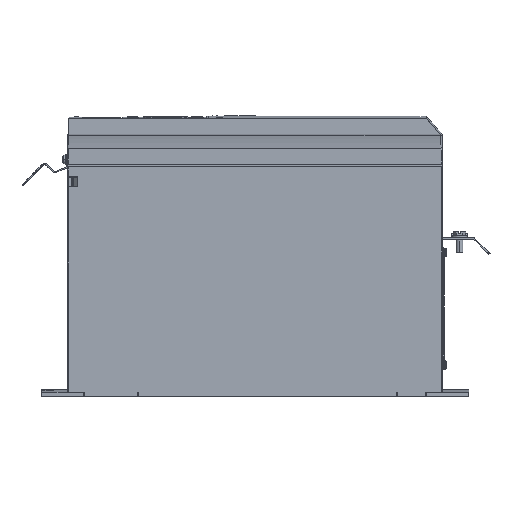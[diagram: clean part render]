
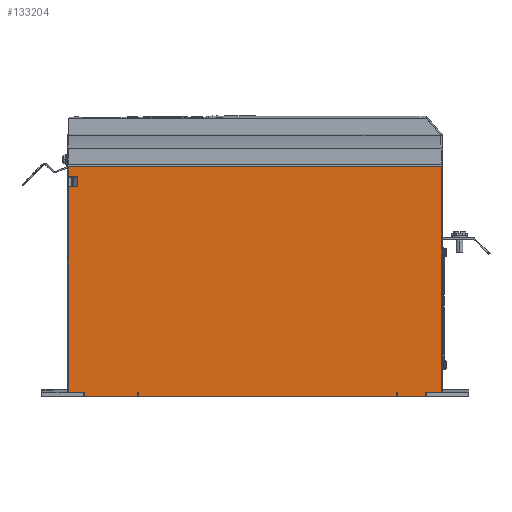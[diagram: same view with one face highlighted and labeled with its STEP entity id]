
A CAD part, left-side view. The second image highlights one B-rep face of the part: STEP entity #133204.
In plain terms, the highlighted planar face has unit normal (-1, 0, 0).
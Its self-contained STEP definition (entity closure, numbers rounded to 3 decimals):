
#48799=DIRECTION('',(0.,1.,0.));
#48800=VECTOR('',#48799,8.146);
#48801=CARTESIAN_POINT('',(-82.5,166.604,205.45));
#48802=LINE('',#48801,#48800);
#48806=DIRECTION('',(0.,0.,1.));
#48807=VECTOR('',#48806,9.2);
#48808=CARTESIAN_POINT('',(-82.5,174.75,205.45));
#48809=LINE('',#48808,#48807);
#48813=DIRECTION('',(0.,1.,0.));
#48814=VECTOR('',#48813,349.25);
#48815=CARTESIAN_POINT('',(-82.5,-174.5,214.65));
#48816=LINE('',#48815,#48814);
#48820=DIRECTION('',(0.,0.,-1.));
#48821=VECTOR('',#48820,210.882);
#48822=CARTESIAN_POINT('',(-82.5,-174.5,214.65));
#48823=LINE('',#48822,#48821);
#48827=DIRECTION('',(0.,1.,0.));
#48828=VECTOR('',#48827,14.95);
#48829=CARTESIAN_POINT('',(-82.5,-174.5,3.768));
#48830=LINE('',#48829,#48828);
#48834=DIRECTION('',(0.,0.,1.));
#48835=VECTOR('',#48834,3.768);
#48836=CARTESIAN_POINT('',(-82.5,-132.589,0.));
#48837=LINE('',#48836,#48835);
#48841=DIRECTION('',(0.,1.,0.));
#48842=VECTOR('',#48841,0.5);
#48843=CARTESIAN_POINT('',(-82.5,-132.589,3.768));
#48844=LINE('',#48843,#48842);
#48848=DIRECTION('',(0.,0.,-1.));
#48849=VECTOR('',#48848,3.775);
#48850=CARTESIAN_POINT('',(-82.5,-132.089,3.768));
#48851=LINE('',#48850,#48849);
#48855=DIRECTION('',(0.,1.,0.));
#48856=VECTOR('',#48855,241.178);
#48857=CARTESIAN_POINT('',(-82.5,-132.089,-0.007));
#48858=LINE('',#48857,#48856);
#48862=DIRECTION('',(0.,0.,1.));
#48863=VECTOR('',#48862,3.775);
#48864=CARTESIAN_POINT('',(-82.5,109.089,-0.007));
#48865=LINE('',#48864,#48863);
#48869=DIRECTION('',(0.,1.,0.));
#48870=VECTOR('',#48869,0.5);
#48871=CARTESIAN_POINT('',(-82.5,109.089,3.768));
#48872=LINE('',#48871,#48870);
#48876=DIRECTION('',(0.,0.,1.));
#48877=VECTOR('',#48876,3.768);
#48878=CARTESIAN_POINT('',(-82.5,109.589,0.));
#48879=LINE('',#48878,#48877);
#48883=DIRECTION('',(0.,1.,0.));
#48884=VECTOR('',#48883,15.594);
#48885=CARTESIAN_POINT('',(-82.5,159.156,3.768));
#48886=LINE('',#48885,#48884);
#48890=DIRECTION('',(0.,0.,1.));
#48891=VECTOR('',#48890,192.182);
#48892=CARTESIAN_POINT('',(-82.5,174.75,3.768));
#48893=LINE('',#48892,#48891);
#48897=DIRECTION('',(0.,1.,0.));
#48898=VECTOR('',#48897,8.854);
#48899=CARTESIAN_POINT('',(-82.5,165.896,195.95));
#48900=LINE('',#48899,#48898);
#48904=DIRECTION('',(0.,0.,-1.));
#48905=VECTOR('',#48904,9.);
#48906=CARTESIAN_POINT('',(-82.5,165.896,
204.95));
#48907=LINE('',#48906,#48905);
#48911=CARTESIAN_POINT('',(-82.5,165.896,
204.95));
#48912=CARTESIAN_POINT('',(-82.5,165.896,
204.967));
#48913=CARTESIAN_POINT('',(-82.5,165.899,
205.001));
#48914=CARTESIAN_POINT('',(-82.5,165.911,
205.055));
#48915=CARTESIAN_POINT('',(-82.5,165.933,
205.112));
#48916=CARTESIAN_POINT('',(-82.5,165.966,
205.17));
#48917=CARTESIAN_POINT('',(-82.5,166.014,
205.229));
#48918=CARTESIAN_POINT('',(-82.5,166.075,
205.285));
#48919=CARTESIAN_POINT('',(-82.5,166.152,
205.337));
#48920=CARTESIAN_POINT('',(-82.5,166.244,
205.383));
#48921=CARTESIAN_POINT('',(-82.5,166.352,
205.42));
#48922=CARTESIAN_POINT('',(-82.5,166.473,
205.444));
#48923=CARTESIAN_POINT('',(-82.5,166.559,
205.45));
#48924=CARTESIAN_POINT('',(-82.5,166.604,205.45));
#50030=CARTESIAN_POINT('',(-82.5,-174.5,3.768));
#50056=CARTESIAN_POINT('',(-82.5,174.75,3.768));
#52208=DIRECTION('',(0.,-1.,0.));
#52209=VECTOR('',#52208,26.961);
#52210=CARTESIAN_POINT('',(-82.5,-132.589,0.));
#52211=LINE('',#52210,#52209);
#52258=DIRECTION('',(0.,0.,1.));
#52259=VECTOR('',#52258,3.768);
#52260=CARTESIAN_POINT('',(-82.5,-159.55,0.));
#52261=LINE('',#52260,#52259);
#52887=DIRECTION('',(0.,0.,1.));
#52888=VECTOR('',#52887,3.768);
#52889=CARTESIAN_POINT('',(-82.5,159.156,0.));
#52890=LINE('',#52889,#52888);
#52930=DIRECTION('',(0.,-1.,0.));
#52931=VECTOR('',#52930,49.567);
#52932=CARTESIAN_POINT('',(-82.5,159.156,0.));
#52933=LINE('',#52932,#52931);
#63193=CARTESIAN_POINT('',(-82.5,-132.089,-0.007));
#63194=CARTESIAN_POINT('',(-82.5,109.089,-0.007));
#63195=VERTEX_POINT('',#63193);
#63196=VERTEX_POINT('',#63194);
#63202=CARTESIAN_POINT('',(-82.5,109.089,3.768));
#63204=VERTEX_POINT('',#63202);
#63206=CARTESIAN_POINT('',(-82.5,-132.089,3.768));
#63208=VERTEX_POINT('',#63206);
#63215=CARTESIAN_POINT('',(-82.5,-132.589,0.));
#63216=VERTEX_POINT('',#63215);
#63217=CARTESIAN_POINT('',(-82.5,-159.55,0.));
#63218=VERTEX_POINT('',#63217);
#63241=CARTESIAN_POINT('',(-82.5,-132.589,3.768));
#63242=VERTEX_POINT('',#63241);
#63243=CARTESIAN_POINT('',(-82.5,-159.55,3.768));
#63245=VERTEX_POINT('',#63243);
#63290=VERTEX_POINT('',#50030);
#63297=CARTESIAN_POINT('',(-82.5,109.589,0.));
#63298=VERTEX_POINT('',#63297);
#63299=CARTESIAN_POINT('',(-82.5,159.156,0.));
#63300=VERTEX_POINT('',#63299);
#63323=CARTESIAN_POINT('',(-82.5,109.589,3.768));
#63324=VERTEX_POINT('',#63323);
#63325=CARTESIAN_POINT('',(-82.5,159.156,3.768));
#63327=VERTEX_POINT('',#63325);
#63600=CARTESIAN_POINT('',(-82.5,-174.5,214.65));
#63602=VERTEX_POINT('',#63600);
#64281=CARTESIAN_POINT('',(-82.5,174.75,214.65));
#64282=VERTEX_POINT('',#64281);
#64283=VERTEX_POINT('',#50056);
#64318=CARTESIAN_POINT('',(-82.5,166.604,205.45));
#64319=CARTESIAN_POINT('',(-82.5,174.75,205.45));
#64320=VERTEX_POINT('',#64318);
#64321=VERTEX_POINT('',#64319);
#64373=VERTEX_POINT('',#48911);
#64377=CARTESIAN_POINT('',(-82.5,165.896,195.95));
#64378=VERTEX_POINT('',#64377);
#64594=CARTESIAN_POINT('',(-82.5,174.75,195.95));
#64596=VERTEX_POINT('',#64594);
#133155=CARTESIAN_POINT('',(-82.5,-175.,3.768));
#133156=DIRECTION('',(-1.,0.,0.));
#133157=DIRECTION('',(0.,0.,1.));
#133158=AXIS2_PLACEMENT_3D('',#133155,#133156,#133157);
#133159=PLANE('',#133158);
#133161=ORIENTED_EDGE('',*,*,#133160,.T.);
#133163=ORIENTED_EDGE('',*,*,#133162,.T.);
#133165=ORIENTED_EDGE('',*,*,#133164,.F.);
#133167=ORIENTED_EDGE('',*,*,#133166,.T.);
#133169=ORIENTED_EDGE('',*,*,#133168,.T.);
#133171=ORIENTED_EDGE('',*,*,#133170,.F.);
#133173=ORIENTED_EDGE('',*,*,#133172,.F.);
#133175=ORIENTED_EDGE('',*,*,#133174,.T.);
#133177=ORIENTED_EDGE('',*,*,#133176,.T.);
#133179=ORIENTED_EDGE('',*,*,#133178,.T.);
#133181=ORIENTED_EDGE('',*,*,#133180,.T.);
#133183=ORIENTED_EDGE('',*,*,#133182,.T.);
#133185=ORIENTED_EDGE('',*,*,#133184,.T.);
#133187=ORIENTED_EDGE('',*,*,#133186,.F.);
#133189=ORIENTED_EDGE('',*,*,#133188,.F.);
#133191=ORIENTED_EDGE('',*,*,#133190,.T.);
#133193=ORIENTED_EDGE('',*,*,#133192,.T.);
#133195=ORIENTED_EDGE('',*,*,#133194,.T.);
#133197=ORIENTED_EDGE('',*,*,#133196,.F.);
#133199=ORIENTED_EDGE('',*,*,#133198,.F.);
#133201=ORIENTED_EDGE('',*,*,#133200,.T.);
#133202=EDGE_LOOP('',(#133161,#133163,#133165,#133167,#133169,#133171,#133173,
#133175,#133177,#133179,#133181,#133183,#133185,#133187,#133189,#133191,#133193,
#133195,#133197,#133199,#133201));
#133203=FACE_OUTER_BOUND('',#133202,.F.);
#133204=ADVANCED_FACE('',(#133203),#133159,.T.);
#48925=B_SPLINE_CURVE_WITH_KNOTS('',3,(#48911,#48912,#48913,#48914,#48915,
#48916,#48917,#48918,#48919,#48920,#48921,#48922,#48923,#48924),.UNSPECIFIED.,
.F.,.F.,(4,1,1,1,1,1,1,1,1,1,1,4),(0.,0.091,0.182,
0.273,0.364,0.455,0.545,
0.636,0.727,0.818,0.909,1.),
.UNSPECIFIED.);
#133160=EDGE_CURVE('',#64320,#64321,#48802,.T.);
#133162=EDGE_CURVE('',#64321,#64282,#48809,.T.);
#133164=EDGE_CURVE('',#63602,#64282,#48816,.T.);
#133166=EDGE_CURVE('',#63602,#63290,#48823,.T.);
#133168=EDGE_CURVE('',#63290,#63245,#48830,.T.);
#133170=EDGE_CURVE('',#63218,#63245,#52261,.T.);
#133172=EDGE_CURVE('',#63216,#63218,#52211,.T.);
#133174=EDGE_CURVE('',#63216,#63242,#48837,.T.);
#133176=EDGE_CURVE('',#63242,#63208,#48844,.T.);
#133178=EDGE_CURVE('',#63208,#63195,#48851,.T.);
#133180=EDGE_CURVE('',#63195,#63196,#48858,.T.);
#133182=EDGE_CURVE('',#63196,#63204,#48865,.T.);
#133184=EDGE_CURVE('',#63204,#63324,#48872,.T.);
#133186=EDGE_CURVE('',#63298,#63324,#48879,.T.);
#133188=EDGE_CURVE('',#63300,#63298,#52933,.T.);
#133190=EDGE_CURVE('',#63300,#63327,#52890,.T.);
#133192=EDGE_CURVE('',#63327,#64283,#48886,.T.);
#133194=EDGE_CURVE('',#64283,#64596,#48893,.T.);
#133196=EDGE_CURVE('',#64378,#64596,#48900,.T.);
#133198=EDGE_CURVE('',#64373,#64378,#48907,.T.);
#133200=EDGE_CURVE('',#64373,#64320,#48925,.T.);
